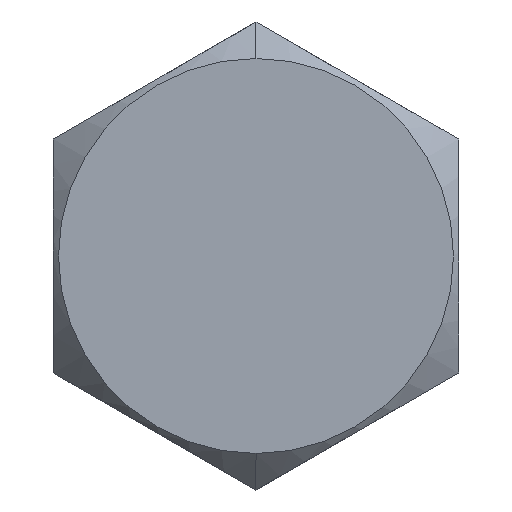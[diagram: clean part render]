
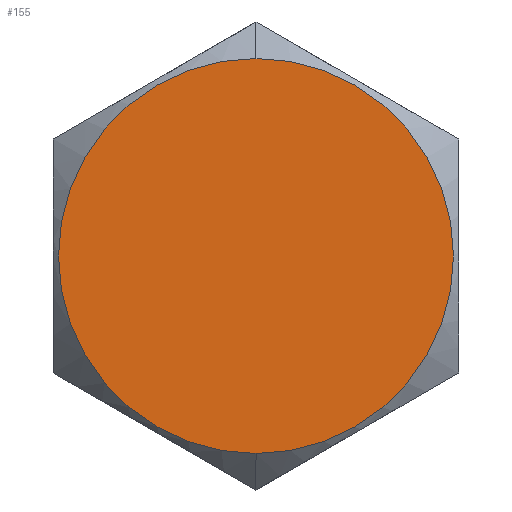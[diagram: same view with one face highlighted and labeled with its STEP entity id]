
A CAD part, left-side view. The second image highlights one B-rep face of the part: STEP entity #155.
In plain terms, the highlighted planar face has unit normal (-1, 0, 0).
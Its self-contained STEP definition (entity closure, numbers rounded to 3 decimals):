
#35 = CARTESIAN_POINT ( 'NONE',  ( 0., 0., 0. ) ) ;
#133 = DIRECTION ( 'NONE',  ( 0., 0., -1. ) ) ;
#155 = ADVANCED_FACE ( 'NONE', ( #382 ), #743, .F. ) ;
#159 = CARTESIAN_POINT ( 'NONE',  ( 0., 0., 4.874 ) ) ;
#186 = AXIS2_PLACEMENT_3D ( 'NONE', #35, #305, #291 ) ;
#291 = DIRECTION ( 'NONE',  ( 0., 0., -1. ) ) ;
#305 = DIRECTION ( 'NONE',  ( 1., 0., 0. ) ) ;
#367 = EDGE_CURVE ( 'NONE', #650, #654, #669, .T. ) ;
#371 = CARTESIAN_POINT ( 'NONE',  ( 0., 0., 0. ) ) ;
#382 = FACE_OUTER_BOUND ( 'NONE', #447, .T. ) ;
#413 = EDGE_CURVE ( 'NONE', #654, #650, #656, .T. ) ;
#441 = ORIENTED_EDGE ( 'NONE', *, *, #413, .F. ) ;
#447 = EDGE_LOOP ( 'NONE', ( #441, #736 ) ) ;
#455 = AXIS2_PLACEMENT_3D ( 'NONE', #770, #702, #133 ) ;
#590 = AXIS2_PLACEMENT_3D ( 'NONE', #371, #640, #636 ) ;
#636 = DIRECTION ( 'NONE',  ( 0., 0., -1. ) ) ;
#640 = DIRECTION ( 'NONE',  ( 1., 0., 0. ) ) ;
#650 = VERTEX_POINT ( 'NONE', #159 ) ;
#651 = CARTESIAN_POINT ( 'NONE',  ( 0., 0., -4.874 ) ) ;
#654 = VERTEX_POINT ( 'NONE', #651 ) ;
#656 = CIRCLE ( 'NONE', #455, 4.874 ) ;
#669 = CIRCLE ( 'NONE', #186, 4.874 ) ;
#702 = DIRECTION ( 'NONE',  ( 1., 0., 0. ) ) ;
#736 = ORIENTED_EDGE ( 'NONE', *, *, #367, .F. ) ;
#743 = PLANE ( 'NONE',  #590 ) ;
#770 = CARTESIAN_POINT ( 'NONE',  ( 0., 0., 0. ) ) ;
